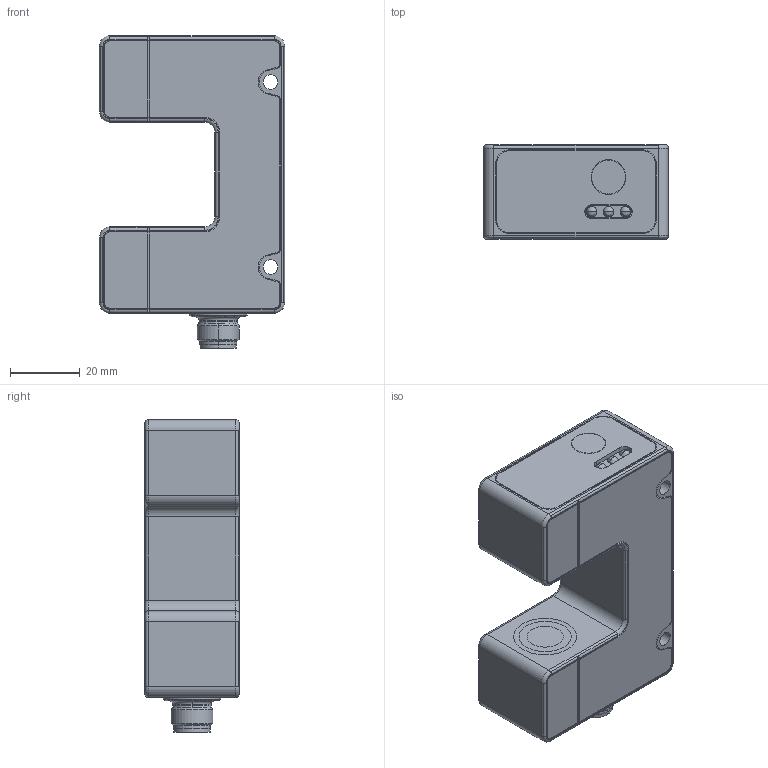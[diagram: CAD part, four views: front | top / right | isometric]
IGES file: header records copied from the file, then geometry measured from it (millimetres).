
Global section: file name: No Iges File Name specified; native system: AutoDesk Inventor R10; preprocessor: AutoDesk Inventor Iges Exporter R10; author: No Author specified; organization: No Organization specified; date: 20070410.154028; units: millimetre
Bounding box: 53 x 27 x 89.5 mm (x, y, z)
Volume: 86241.6 mm3; surface area: 19301.3 mm2
Topology: 1 solids, 1 shells, 291 faces, 766 edges, 489 vertices
Faces by surface type: plane 116, cylinder 89, revolution 38, bspline 16, torus 16, sphere 10, cone 6
